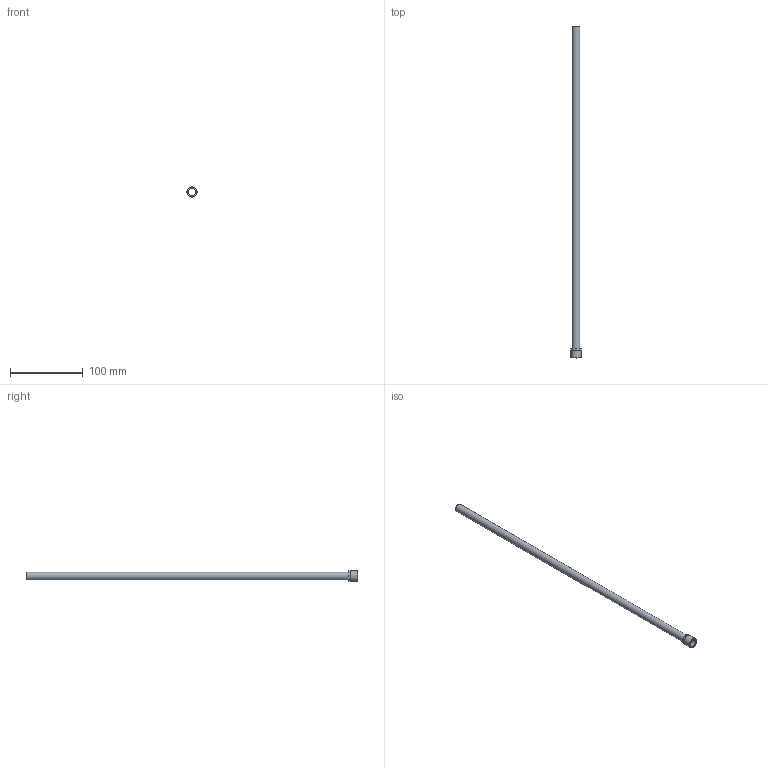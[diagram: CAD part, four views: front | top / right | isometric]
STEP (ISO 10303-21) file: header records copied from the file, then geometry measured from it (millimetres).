
FILE_DESCRIPTION(/* description */ (''),/* implementation_level */ '2;1');
FILE_NAME(/* name */ 'C:/Users/drich/Desktop/JHF437T-18 v1.step',/* time_stamp */ '2020-01-02T20:02:00-06:00',/* author */ (''),/* organization */ (''),/* preprocessor_version */ 'ST-DEVELOPER v18',/* originating_system */ 'Autodesk Translation Framework v8.12.0.6',/* authorisation */ '');
FILE_SCHEMA (('AUTOMOTIVE_DESIGN { 1 0 10303 214 3 1 1 }'));
Length unit declared in the file: inch
Products named in the file (1): JHF437T-18
Bounding box: 14.33 x 457.2 x 14.33 mm (x, y, z)
Volume: 6613.6 mm3; surface area: 30349.8 mm2
Topology: 1 solids, 1 shells, 10 faces, 24 edges, 18 vertices
Faces by surface type: cylinder 4, plane 4, cone 1, torus 1
Full cylindrical faces by diameter (mm): 10.084 x1, 10.846 x1, 14.176 x1, 14.326 x1
Entity records: 354 total; most frequent: DIRECTION 65, CARTESIAN_POINT 53, ORIENTED_EDGE 48, AXIS2_PLACEMENT_3D 30, EDGE_CURVE 24, CIRCLE 19, VERTEX_POINT 18, EDGE_LOOP 14
